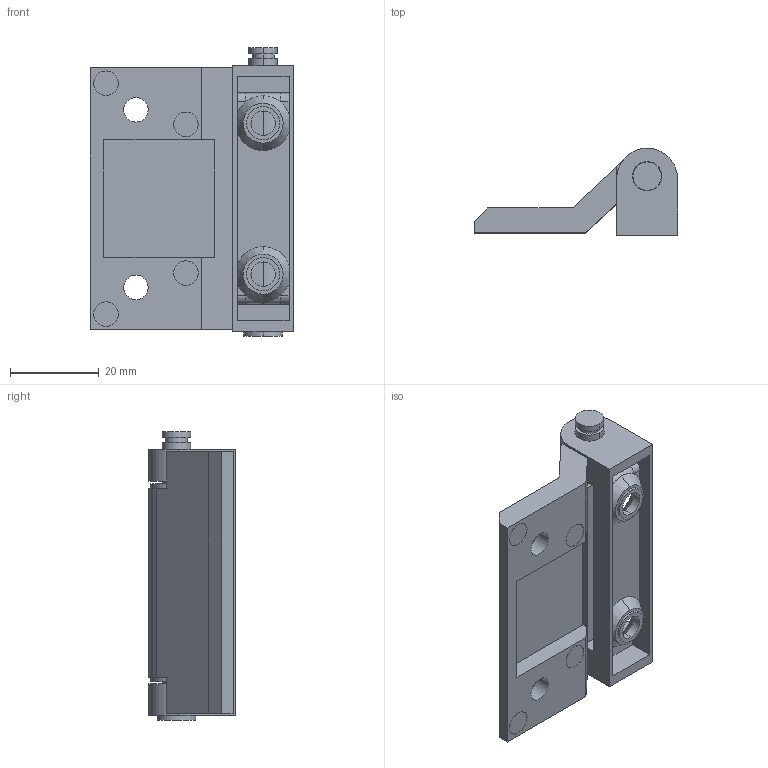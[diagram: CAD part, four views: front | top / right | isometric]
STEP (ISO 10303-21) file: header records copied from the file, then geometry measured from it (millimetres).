
FILE_DESCRIPTION (( 'STEP AP203' ), '1' );
FILE_NAME ('XG02-019-1-2.STEP', '2026-03-21T09:17:11', ( '微软用户' ), ( '微软中国' ), 'SwSTEP 2.0', 'SolidWorks 2024', '' );
FILE_SCHEMA (( 'CONFIG_CONTROL_DESIGN' ));
Length unit declared in the file: millimetre
Products named in the file (4): XG02-019-1-2_销钉; XG02-019-1-2_A; XG02-019-1-2_B; XG02-019-1-2
Assembly tree (3 placements, depth 2):
  XG02-019-1-2
    XG02-019-1-2_A
    XG02-019-1-2_B
    XG02-019-1-2_销钉
Bounding box: 45.74 x 19.6 x 65 mm (x, y, z)
Volume: 19570.4 mm3; surface area: 13723.2 mm2
Topology: 3 solids, 3 shells, 121 faces, 293 edges, 190 vertices
Faces by surface type: plane 54, cylinder 47, cone 16, bspline 2, torus 2
Entity records: 4203 total; most frequent: CARTESIAN_POINT 828, DIRECTION 663, ORIENTED_EDGE 586, EDGE_CURVE 293, AXIS2_PLACEMENT_3D 253, VERTEX_POINT 190, LINE 157, VECTOR 157
